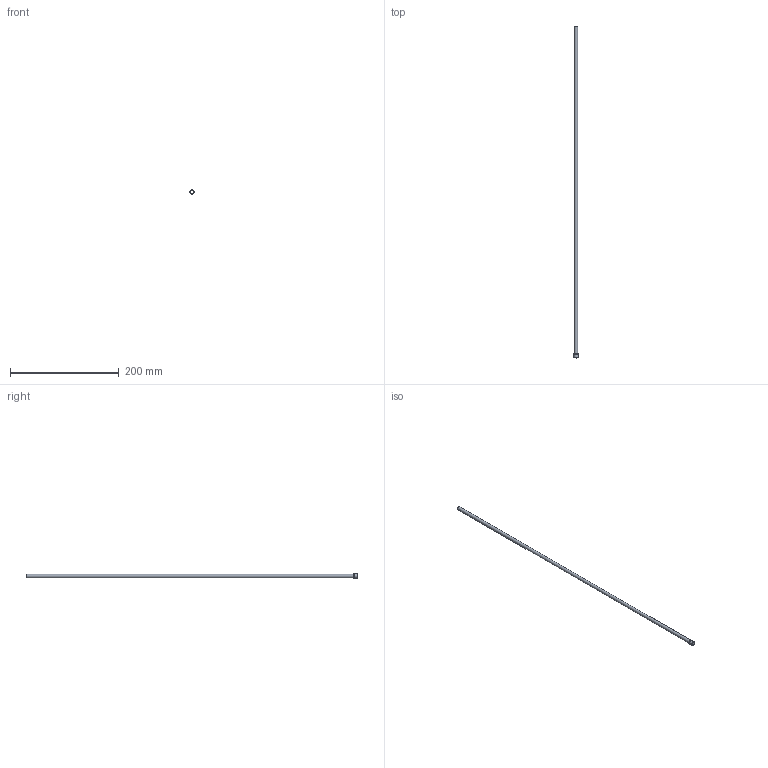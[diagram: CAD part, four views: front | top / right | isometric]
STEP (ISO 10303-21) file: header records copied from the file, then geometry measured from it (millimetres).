
FILE_DESCRIPTION(/* description */ (''),/* implementation_level */ '2;1');
FILE_NAME(/* name */ 'C:/Users/drich/Desktop/HF250T-24 v1.step',/* time_stamp */ '2019-12-30T13:32:14-06:00',/* author */ (''),/* organization */ (''),/* preprocessor_version */ 'ST-DEVELOPER v18',/* originating_system */ 'Autodesk Translation Framework v8.12.0.6',/* authorisation */ '');
FILE_SCHEMA (('AUTOMOTIVE_DESIGN { 1 0 10303 214 3 1 1 }'));
Length unit declared in the file: inch
Products named in the file (1): HF250T-24
Bounding box: 7.98 x 609.6 x 7.98 mm (x, y, z)
Volume: 3087.1 mm3; surface area: 23419.7 mm2
Topology: 1 solids, 1 shells, 12 faces, 30 edges, 22 vertices
Faces by surface type: plane 4, cylinder 4, torus 3, cone 1
Full cylindrical faces by diameter (mm): 5.842 x1, 6.35 x1, 7.818 x1, 7.976 x1
Entity records: 426 total; most frequent: DIRECTION 81, CARTESIAN_POINT 65, ORIENTED_EDGE 60, AXIS2_PLACEMENT_3D 38, EDGE_CURVE 30, CIRCLE 25, VERTEX_POINT 22, EDGE_LOOP 16
